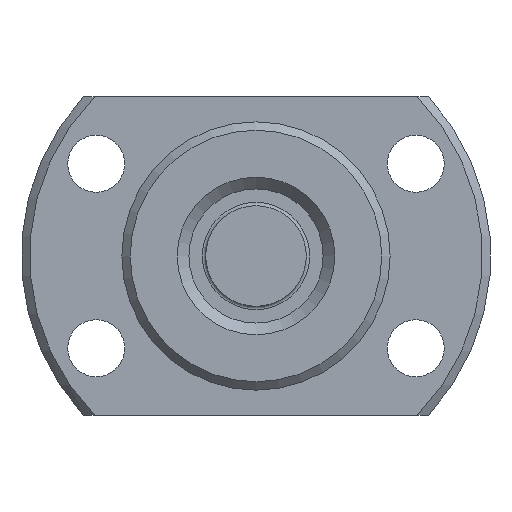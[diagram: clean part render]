
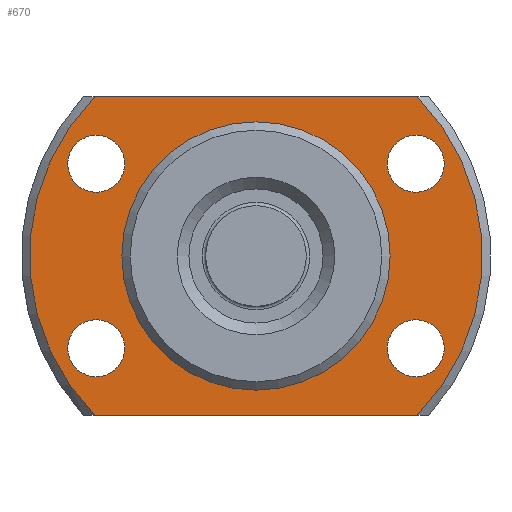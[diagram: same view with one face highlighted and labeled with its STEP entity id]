
A CAD part, left-side view. The second image highlights one B-rep face of the part: STEP entity #670.
In plain terms, the highlighted planar face has unit normal (-1, 0, 0) as drawn and (1, 0, 0) by its records, which use the part's own axes.
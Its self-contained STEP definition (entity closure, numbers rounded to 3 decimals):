
#58=LINE('',#1164,#74);
#59=LINE('',#1168,#75);
#74=VECTOR('',#966,1000.);
#75=VECTOR('',#969,1000.);
#171=ORIENTED_EDGE('',*,*,#287,.T.);
#172=ORIENTED_EDGE('',*,*,#288,.T.);
#173=ORIENTED_EDGE('',*,*,#289,.T.);
#174=ORIENTED_EDGE('',*,*,#290,.T.);
#175=ORIENTED_EDGE('',*,*,#291,.F.);
#176=ORIENTED_EDGE('',*,*,#292,.T.);
#177=ORIENTED_EDGE('',*,*,#293,.T.);
#178=ORIENTED_EDGE('',*,*,#294,.T.);
#179=ORIENTED_EDGE('',*,*,#295,.T.);
#287=EDGE_CURVE('',#357,#357,#413,.F.);
#288=EDGE_CURVE('',#358,#358,#414,.F.);
#289=EDGE_CURVE('',#359,#359,#415,.F.);
#290=EDGE_CURVE('',#360,#360,#416,.F.);
#291=EDGE_CURVE('',#361,#361,#417,.T.);
#292=EDGE_CURVE('',#362,#363,#418,.T.);
#293=EDGE_CURVE('',#363,#364,#58,.T.);
#294=EDGE_CURVE('',#364,#365,#419,.T.);
#295=EDGE_CURVE('',#365,#362,#59,.T.);
#357=VERTEX_POINT('',#1152);
#358=VERTEX_POINT('',#1154);
#359=VERTEX_POINT('',#1156);
#360=VERTEX_POINT('',#1158);
#361=VERTEX_POINT('',#1160);
#362=VERTEX_POINT('',#1162);
#363=VERTEX_POINT('',#1163);
#364=VERTEX_POINT('',#1165);
#365=VERTEX_POINT('',#1167);
#413=CIRCLE('',#779,1.7);
#414=CIRCLE('',#780,1.7);
#415=CIRCLE('',#781,1.7);
#416=CIRCLE('',#782,1.7);
#417=CIRCLE('',#783,7.75);
#418=CIRCLE('',#784,13.5);
#419=CIRCLE('',#785,13.5);
#486=EDGE_LOOP('',(#171));
#487=EDGE_LOOP('',(#172));
#488=EDGE_LOOP('',(#173));
#489=EDGE_LOOP('',(#174));
#490=EDGE_LOOP('',(#175));
#491=EDGE_LOOP('',(#176,#177,#178,#179));
#580=FACE_BOUND('',#486,.T.);
#581=FACE_BOUND('',#487,.T.);
#582=FACE_BOUND('',#488,.T.);
#583=FACE_BOUND('',#489,.T.);
#584=FACE_BOUND('',#490,.T.);
#585=FACE_BOUND('',#491,.T.);
#636=PLANE('',#778);
#670=ADVANCED_FACE('',(#580,#581,#582,#583,#584,#585),#636,.T.);
#778=AXIS2_PLACEMENT_3D('',#1150,#952,#953);
#779=AXIS2_PLACEMENT_3D('',#1151,#954,#955);
#780=AXIS2_PLACEMENT_3D('',#1153,#956,#957);
#781=AXIS2_PLACEMENT_3D('',#1155,#958,#959);
#782=AXIS2_PLACEMENT_3D('',#1157,#960,#961);
#783=AXIS2_PLACEMENT_3D('',#1159,#962,#963);
#784=AXIS2_PLACEMENT_3D('',#1161,#964,#965);
#785=AXIS2_PLACEMENT_3D('',#1166,#967,#968);
#952=DIRECTION('',(1.,0.,0.));
#953=DIRECTION('',(0.,0.,-1.));
#954=DIRECTION('',(1.,0.,0.));
#955=DIRECTION('',(0.,0.,-1.));
#956=DIRECTION('',(1.,0.,0.));
#957=DIRECTION('',(0.,0.,-1.));
#958=DIRECTION('',(1.,0.,0.));
#959=DIRECTION('',(0.,0.,-1.));
#960=DIRECTION('',(1.,0.,0.));
#961=DIRECTION('',(0.,0.,-1.));
#962=DIRECTION('',(1.,0.,0.));
#963=DIRECTION('',(0.,0.,-1.));
#964=DIRECTION('',(1.,0.,0.));
#965=DIRECTION('',(0.,0.,-1.));
#966=DIRECTION('',(0.,-1.,0.));
#967=DIRECTION('',(1.,0.,0.));
#968=DIRECTION('',(0.,0.,-1.));
#969=DIRECTION('',(0.,1.,0.));
#1150=CARTESIAN_POINT('',(6.,7.75,0.));
#1151=CARTESIAN_POINT('',(6.,9.526,5.5));
#1152=CARTESIAN_POINT('',(6.,9.526,3.8));
#1153=CARTESIAN_POINT('',(6.,-9.526,-5.5));
#1154=CARTESIAN_POINT('',(6.,-9.526,-7.2));
#1155=CARTESIAN_POINT('',(6.,-9.526,5.5));
#1156=CARTESIAN_POINT('',(6.,-9.526,3.8));
#1157=CARTESIAN_POINT('',(6.,9.526,-5.5));
#1158=CARTESIAN_POINT('',(6.,9.526,-7.2));
#1159=CARTESIAN_POINT('',(6.,0.,0.));
#1160=CARTESIAN_POINT('',(6.,0.,-7.75));
#1161=CARTESIAN_POINT('',(6.,0.,0.));
#1162=CARTESIAN_POINT('',(6.,9.592,-9.5));
#1163=CARTESIAN_POINT('',(6.,9.592,9.5));
#1164=CARTESIAN_POINT('',(6.,7.75,9.5));
#1165=CARTESIAN_POINT('',(6.,-9.592,9.5));
#1166=CARTESIAN_POINT('',(6.,0.,0.));
#1167=CARTESIAN_POINT('',(6.,-9.592,-9.5));
#1168=CARTESIAN_POINT('',(6.,7.75,-9.5));
